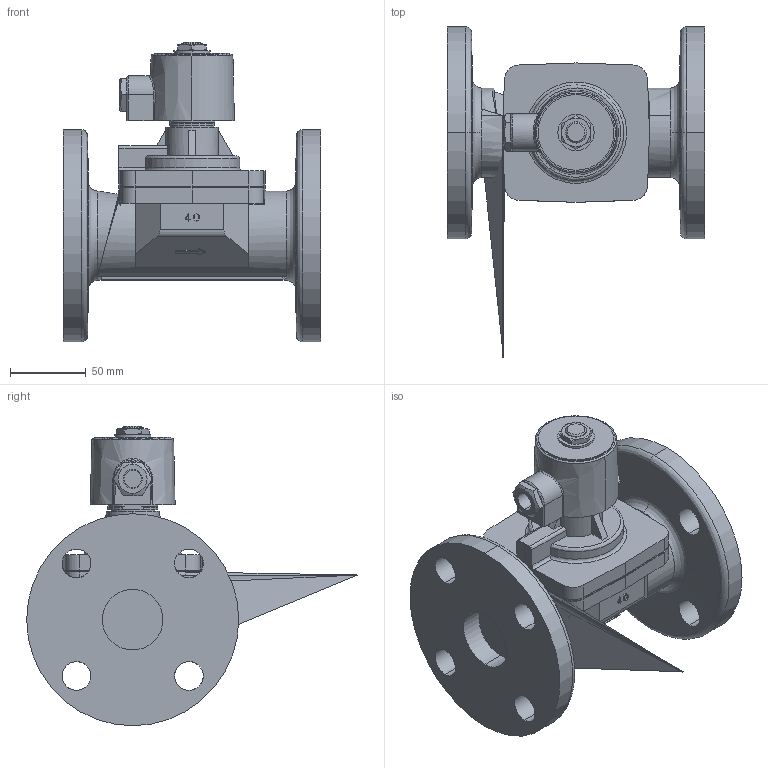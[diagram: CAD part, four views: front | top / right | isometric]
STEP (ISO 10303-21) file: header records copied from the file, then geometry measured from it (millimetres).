
FILE_DESCRIPTION( (''), '2;1');
FILE_NAME ('PC1056.13084.DP-200F(40A)_13070.stp','2024-07-19T14:54:44',(''),(''),'spGate 19.8.4 (****-****-****-****)','','');
FILE_SCHEMA (('AUTOMOTIVE_DESIGN'));
Length unit declared in the file: millimetre
Products named in the file (5): Assembly; DP-200(32_50A）パイプP; コイル六角ナット座金; ACコイル10A; DP200F(40A)本体
Assembly tree (4 placements, depth 2):
  Assembly
    DP-200(32_50A）パイプP
    コイル六角ナット座金
    ACコイル10A
    DP200F(40A)本体
Bounding box: 170 x 218.31 x 197.7 mm (x, y, z)
Volume: 1158638.6 mm3; surface area: 156702.4 mm2
Topology: 4 solids, 4 shells, 429 faces, 1048 edges, 656 vertices
Faces by surface type: plane 187, cylinder 134, bspline 108
Entity records: 24142 total; most frequent: CARTESIAN_POINT 6434, ORIENTED_EDGE 2088, DIRECTION 1667, COLOUR_RGB 1476, PRESENTATION_STYLE_ASSIGNMENT 1476, STYLED_ITEM 1476, EDGE_CURVE 1044, DRAUGHTING_PRE_DEFINED_CURVE_FONT 1044
